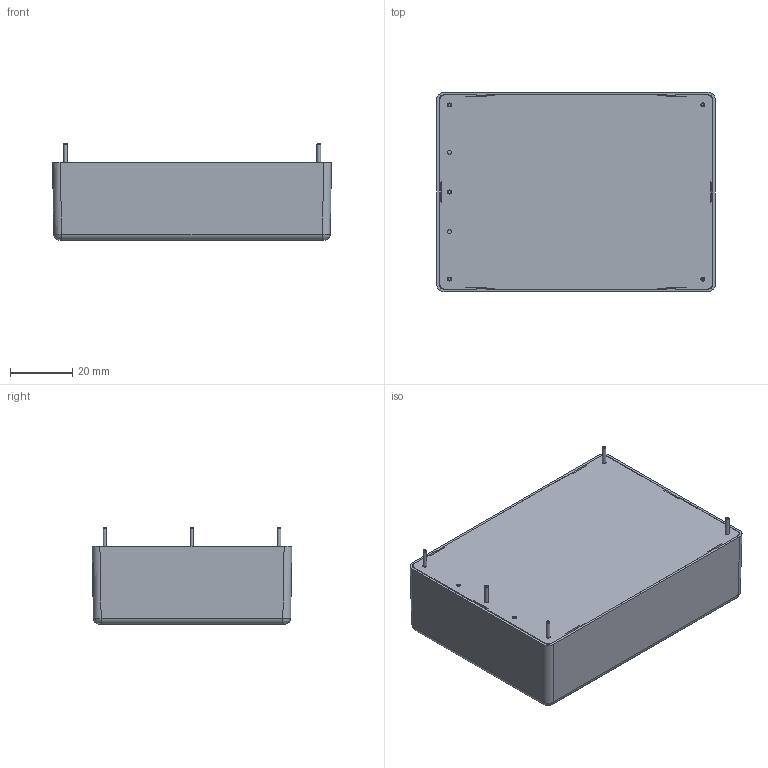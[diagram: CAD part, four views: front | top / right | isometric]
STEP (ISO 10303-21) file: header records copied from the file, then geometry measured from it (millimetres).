
FILE_DESCRIPTION(/* description */ (''),/* implementation_level */ '2;1');
FILE_NAME(/* name */ 'D:\Inventor\AJC\TML 402xx.stp',/* time_stamp */ '2019-10-16T14:18:20+08:00',/* author */ ('peter'),/* organization */ (''),/* preprocessor_version */ 'ST-DEVELOPER v15.2',/* originating_system */ 'Autodesk Inventor 2014',/* authorisation */ '');
FILE_SCHEMA (('CONFIG_CONTROL_DESIGN'));
Length unit declared in the file: millimetre
Products named in the file (4): TOP CASE-01; BOT CASE; PIN 1R2 x 25 mm; TML 402xx
Bounding box: 89.5 x 64.1 x 31 mm (x, y, z)
Volume: 23246.2 mm3; surface area: 37143.3 mm2
Topology: 7 solids, 7 shells, 186 faces, 434 edges, 275 vertices
Faces by surface type: plane 101, cylinder 50, torus 20, bspline 8, cone 7
Full cylindrical faces by diameter (mm): 1.2 x10, 1.3 x7, 1.7 x5
Entity records: 4506 total; most frequent: CARTESIAN_POINT 925, DIRECTION 730, ORIENTED_EDGE 690, EDGE_CURVE 345, LINE 250, VECTOR 250, AXIS2_PLACEMENT_3D 240, VERTEX_POINT 235
